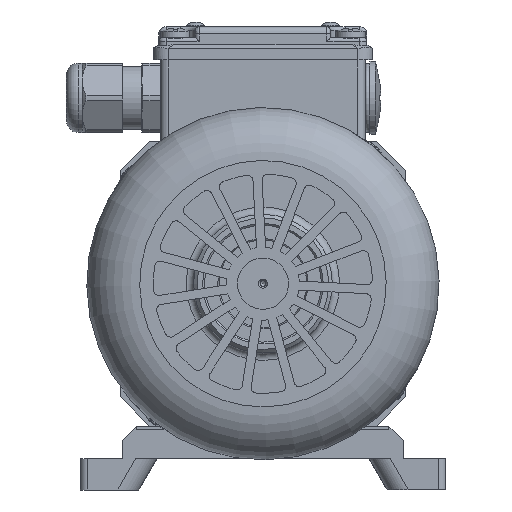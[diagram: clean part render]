
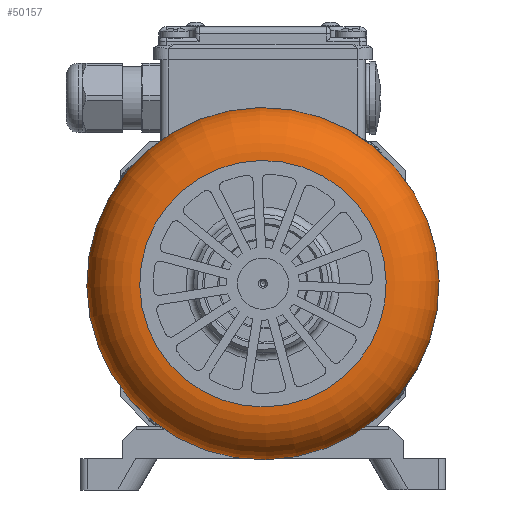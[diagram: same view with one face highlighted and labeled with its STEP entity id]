
A CAD part, left-side view. The second image highlights one B-rep face of the part: STEP entity #50157.
In plain terms, the highlighted toroidal (fillet/blend) face has major radius 33.75 mm and minor radius 14.5 mm.
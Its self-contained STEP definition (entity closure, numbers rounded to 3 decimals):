
#560=TOROIDAL_SURFACE('',#54437,33.75,14.5);
#11229=FACE_BOUND('',#16639,.T.);
#13518=FACE_OUTER_BOUND('',#16638,.T.);
#16638=EDGE_LOOP('',(#43030));
#16639=EDGE_LOOP('',(#43031));
#18791=CIRCLE('',#54438,33.75);
#18792=CIRCLE('',#54439,48.25);
#23323=VERTEX_POINT('',#93280);
#23324=VERTEX_POINT('',#93282);
#30111=EDGE_CURVE('',#23323,#23323,#18791,.T.);
#30112=EDGE_CURVE('',#23324,#23324,#18792,.T.);
#43030=ORIENTED_EDGE('',*,*,#30111,.T.);
#43031=ORIENTED_EDGE('',*,*,#30112,.T.);
#50157=ADVANCED_FACE('',(#13518,#11229),#560,.T.);
#54437=AXIS2_PLACEMENT_3D('',#93279,#65098,#65099);
#54438=AXIS2_PLACEMENT_3D('',#93281,#65100,#65101);
#54439=AXIS2_PLACEMENT_3D('',#93283,#65102,#65103);
#65098=DIRECTION('center_axis',(0.,0.,-1.));
#65099=DIRECTION('ref_axis',(-1.,0.,0.));
#65100=DIRECTION('center_axis',(0.,0.,-1.));
#65101=DIRECTION('ref_axis',(-1.,0.,0.));
#65102=DIRECTION('center_axis',(0.,0.,1.));
#65103=DIRECTION('ref_axis',(-1.,0.,0.));
#93279=CARTESIAN_POINT('Origin',(0.,0.,50.5));
#93280=CARTESIAN_POINT('',(33.75,0.,65.));
#93281=CARTESIAN_POINT('Origin',(0.,0.,65.));
#93282=CARTESIAN_POINT('',(48.25,0.,50.5));
#93283=CARTESIAN_POINT('Origin',(0.,0.,50.5));
